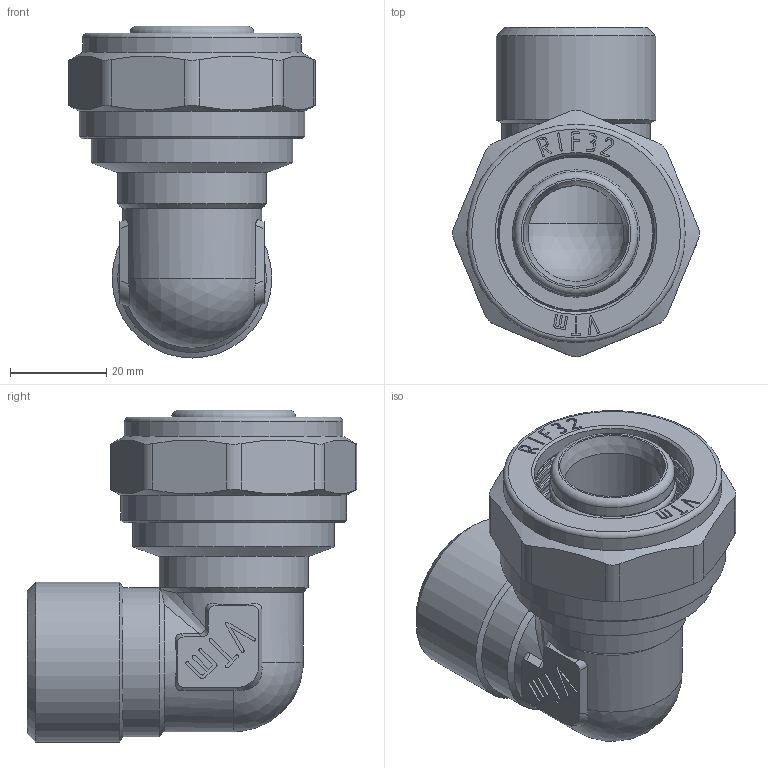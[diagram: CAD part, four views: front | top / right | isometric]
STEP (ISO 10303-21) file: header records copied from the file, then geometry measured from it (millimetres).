
FILE_DESCRIPTION(('STEP AP203'), '1');
FILE_NAME('VTm.353.N.003206', '', ('UNSPECIFIED'), ('UNSPECIFIED'), 'C3D Converter', 'C3D Toolkit', '');
FILE_SCHEMA(('CONFIG_CONTROL_DESIGN'));
Length unit declared in the file: millimetre
Products named in the file (1): ВР.302635.113.000 СБ
Bounding box: 51.3 x 68.65 x 69.12 mm (x, y, z)
Volume: 51242.8 mm3; surface area: 28513.1 mm2
Topology: 1 solids, 1 shells, 465 faces, 1278 edges, 841 vertices
Faces by surface type: extrusion 207, plane 153, cylinder 54, torus 29, cone 18, bspline 2, sphere 2
Full cylindrical faces by diameter (mm): 20 x1, 22.8 x4, 24.5 x1, 25.8 x5, 26 x1, 31 x2, 32.1 x1, 32.2 x1, 32.7 x1, 33.249 x1, 40.376 x1, 42 x1, 45.5 x1, 47 x1
Entity records: 17338 total; most frequent: CARTESIAN_POINT 6723, ORIENTED_EDGE 2450, DIRECTION 1504, EDGE_CURVE 1225, VERTEX_POINT 840, VECTOR 772, B_SPLINE_CURVE_WITH_KNOTS 722, LINE 565
